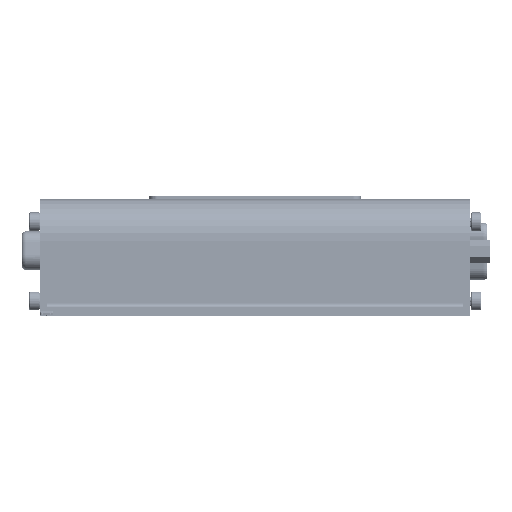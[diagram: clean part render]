
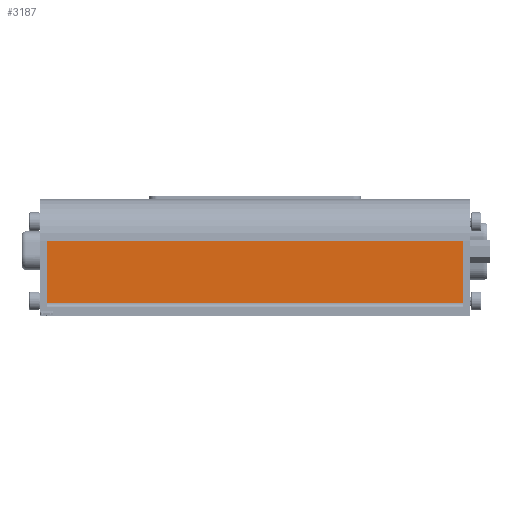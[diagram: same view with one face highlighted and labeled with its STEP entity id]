
A CAD part, left-side view. The second image highlights one B-rep face of the part: STEP entity #3187.
In plain terms, the highlighted planar face has unit normal (-1, 0, 0).
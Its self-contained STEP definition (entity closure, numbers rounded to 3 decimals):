
#115 = PLANE('',#116);
#116 = AXIS2_PLACEMENT_3D('',#117,#118,#119);
#117 = CARTESIAN_POINT('',(72.,-100.,11.739));
#118 = DIRECTION('',(0.,-1.,0.));
#119 = DIRECTION('',(1.,0.,0.));
#169 = PLANE('',#170);
#170 = AXIS2_PLACEMENT_3D('',#171,#172,#173);
#171 = CARTESIAN_POINT('',(72.,0.,11.739));
#172 = DIRECTION('',(0.,1.,0.));
#173 = DIRECTION('',(0.,0.,-1.));
#436 = CYLINDRICAL_SURFACE('',#437,1.);
#437 = AXIS2_PLACEMENT_3D('',#438,#439,#440);
#438 = CARTESIAN_POINT('',(11.,0.,3.));
#439 = DIRECTION('',(0.,1.,0.));
#440 = DIRECTION('',(1.,0.,0.));
#524 = VERTEX_POINT('',#525);
#525 = CARTESIAN_POINT('',(12.,0.,3.));
#550 = EDGE_CURVE('',#524,#551,#553,.T.);
#551 = VERTEX_POINT('',#552);
#552 = CARTESIAN_POINT('',(12.,0.,18.));
#553 = SURFACE_CURVE('',#554,(#558,#565),.PCURVE_S1.);
#554 = LINE('',#555,#556);
#555 = CARTESIAN_POINT('',(12.,0.,3.));
#556 = VECTOR('',#557,1.);
#557 = DIRECTION('',(0.,0.,1.));
#558 = PCURVE('',#169,#559);
#559 = DEFINITIONAL_REPRESENTATION('',(#560),#564);
#560 = LINE('',#561,#562);
#561 = CARTESIAN_POINT('',(8.739,60.));
#562 = VECTOR('',#563,1.);
#563 = DIRECTION('',(-1.,0.));
#564 = ( GEOMETRIC_REPRESENTATION_CONTEXT(2) 
PARAMETRIC_REPRESENTATION_CONTEXT() REPRESENTATION_CONTEXT('2D SPACE',''
  ) );
#565 = PCURVE('',#566,#571);
#566 = PLANE('',#567);
#567 = AXIS2_PLACEMENT_3D('',#568,#569,#570);
#568 = CARTESIAN_POINT('',(12.,0.,3.));
#569 = DIRECTION('',(-1.,0.,0.));
#570 = DIRECTION('',(0.,0.,1.));
#571 = DEFINITIONAL_REPRESENTATION('',(#572),#576);
#572 = LINE('',#573,#574);
#573 = CARTESIAN_POINT('',(0.,0.));
#574 = VECTOR('',#575,1.);
#575 = DIRECTION('',(1.,0.));
#576 = ( GEOMETRIC_REPRESENTATION_CONTEXT(2) 
PARAMETRIC_REPRESENTATION_CONTEXT() REPRESENTATION_CONTEXT('2D SPACE',''
  ) );
#599 = CYLINDRICAL_SURFACE('',#600,10.);
#600 = AXIS2_PLACEMENT_3D('',#601,#602,#603);
#601 = CARTESIAN_POINT('',(22.,0.,18.));
#602 = DIRECTION('',(0.,1.,0.));
#603 = DIRECTION('',(1.,0.,0.));
#2017 = VERTEX_POINT('',#2018);
#2018 = CARTESIAN_POINT('',(12.,-100.,18.));
#2039 = EDGE_CURVE('',#2040,#2017,#2042,.T.);
#2040 = VERTEX_POINT('',#2041);
#2041 = CARTESIAN_POINT('',(12.,-100.,3.));
#2042 = SURFACE_CURVE('',#2043,(#2047,#2054),.PCURVE_S1.);
#2043 = LINE('',#2044,#2045);
#2044 = CARTESIAN_POINT('',(12.,-100.,3.));
#2045 = VECTOR('',#2046,1.);
#2046 = DIRECTION('',(0.,0.,1.));
#2047 = PCURVE('',#115,#2048);
#2048 = DEFINITIONAL_REPRESENTATION('',(#2049),#2053);
#2049 = LINE('',#2050,#2051);
#2050 = CARTESIAN_POINT('',(-60.,-8.739));
#2051 = VECTOR('',#2052,1.);
#2052 = DIRECTION('',(0.,1.));
#2053 = ( GEOMETRIC_REPRESENTATION_CONTEXT(2) 
PARAMETRIC_REPRESENTATION_CONTEXT() REPRESENTATION_CONTEXT('2D SPACE',''
  ) );
#2054 = PCURVE('',#566,#2055);
#2055 = DEFINITIONAL_REPRESENTATION('',(#2056),#2060);
#2056 = LINE('',#2057,#2058);
#2057 = CARTESIAN_POINT('',(0.,-100.));
#2058 = VECTOR('',#2059,1.);
#2059 = DIRECTION('',(1.,0.));
#2060 = ( GEOMETRIC_REPRESENTATION_CONTEXT(2) 
PARAMETRIC_REPRESENTATION_CONTEXT() REPRESENTATION_CONTEXT('2D SPACE',''
  ) );
#3166 = EDGE_CURVE('',#524,#2040,#3167,.T.);
#3167 = SURFACE_CURVE('',#3168,(#3172,#3178),.PCURVE_S1.);
#3168 = LINE('',#3169,#3170);
#3169 = CARTESIAN_POINT('',(12.,0.,3.));
#3170 = VECTOR('',#3171,1.);
#3171 = DIRECTION('',(0.,-1.,0.));
#3172 = PCURVE('',#436,#3173);
#3173 = DEFINITIONAL_REPRESENTATION('',(#3174),#3177);
#3174 = B_SPLINE_CURVE_WITH_KNOTS('',1,(#3175,#3176),.UNSPECIFIED.,.F.,
  .F.,(2,2),(0.,100.),.PIECEWISE_BEZIER_KNOTS.);
#3175 = CARTESIAN_POINT('',(0.,0.));
#3176 = CARTESIAN_POINT('',(0.,-100.));
#3177 = ( GEOMETRIC_REPRESENTATION_CONTEXT(2) 
PARAMETRIC_REPRESENTATION_CONTEXT() REPRESENTATION_CONTEXT('2D SPACE',''
  ) );
#3178 = PCURVE('',#566,#3179);
#3179 = DEFINITIONAL_REPRESENTATION('',(#3180),#3184);
#3180 = LINE('',#3181,#3182);
#3181 = CARTESIAN_POINT('',(0.,0.));
#3182 = VECTOR('',#3183,1.);
#3183 = DIRECTION('',(0.,-1.));
#3184 = ( GEOMETRIC_REPRESENTATION_CONTEXT(2) 
PARAMETRIC_REPRESENTATION_CONTEXT() REPRESENTATION_CONTEXT('2D SPACE',''
  ) );
#3187 = ADVANCED_FACE('',(#3188),#566,.T.);
#3188 = FACE_BOUND('',#3189,.T.);
#3189 = EDGE_LOOP('',(#3190,#3191,#3192,#3212));
#3190 = ORIENTED_EDGE('',*,*,#3166,.T.);
#3191 = ORIENTED_EDGE('',*,*,#2039,.T.);
#3192 = ORIENTED_EDGE('',*,*,#3193,.F.);
#3193 = EDGE_CURVE('',#551,#2017,#3194,.T.);
#3194 = SURFACE_CURVE('',#3195,(#3199,#3206),.PCURVE_S1.);
#3195 = LINE('',#3196,#3197);
#3196 = CARTESIAN_POINT('',(12.,0.,18.));
#3197 = VECTOR('',#3198,1.);
#3198 = DIRECTION('',(0.,-1.,0.));
#3199 = PCURVE('',#566,#3200);
#3200 = DEFINITIONAL_REPRESENTATION('',(#3201),#3205);
#3201 = LINE('',#3202,#3203);
#3202 = CARTESIAN_POINT('',(15.,0.));
#3203 = VECTOR('',#3204,1.);
#3204 = DIRECTION('',(0.,-1.));
#3205 = ( GEOMETRIC_REPRESENTATION_CONTEXT(2) 
PARAMETRIC_REPRESENTATION_CONTEXT() REPRESENTATION_CONTEXT('2D SPACE',''
  ) );
#3206 = PCURVE('',#599,#3207);
#3207 = DEFINITIONAL_REPRESENTATION('',(#3208),#3211);
#3208 = B_SPLINE_CURVE_WITH_KNOTS('',1,(#3209,#3210),.UNSPECIFIED.,.F.,
  .F.,(2,2),(0.,100.),.PIECEWISE_BEZIER_KNOTS.);
#3209 = CARTESIAN_POINT('',(3.142,0.));
#3210 = CARTESIAN_POINT('',(3.142,-100.));
#3211 = ( GEOMETRIC_REPRESENTATION_CONTEXT(2) 
PARAMETRIC_REPRESENTATION_CONTEXT() REPRESENTATION_CONTEXT('2D SPACE',''
  ) );
#3212 = ORIENTED_EDGE('',*,*,#550,.F.);
